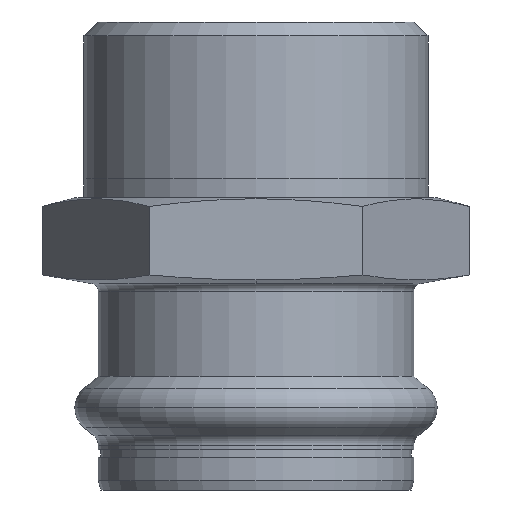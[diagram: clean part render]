
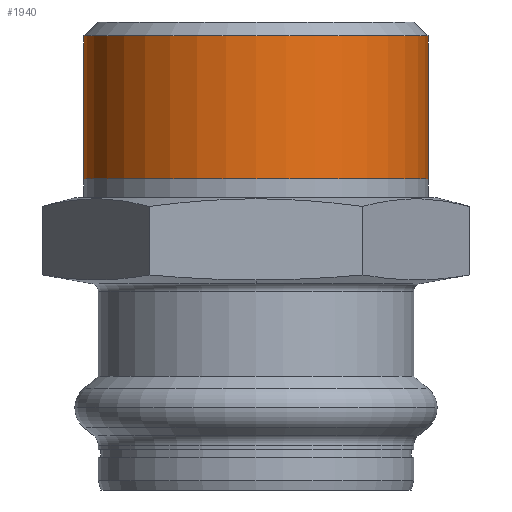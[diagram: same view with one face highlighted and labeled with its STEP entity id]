
A CAD part, front view. The second image highlights one B-rep face of the part: STEP entity #1940.
In plain terms, the highlighted cylindrical face has radius 20.955 mm (diameter 41.91 mm), a partial arc.
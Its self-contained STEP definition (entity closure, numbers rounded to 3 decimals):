
#730=CARTESIAN_POINT('',(37.446,71.588,10.6));
#740=DIRECTION('',(0.,0.,1.));
#750=DIRECTION('',(1.,0.,0.));
#760=AXIS2_PLACEMENT_3D('',#730,#740,#750);
#770=CYLINDRICAL_SURFACE('',#760,20.955);
#1450=CARTESIAN_POINT('',(16.491,71.588,12.9));
#1460=VERTEX_POINT('',#1450);
#1490=CARTESIAN_POINT('',(37.446,71.588,12.9));
#1500=DIRECTION('',(0.,0.,1.));
#1510=DIRECTION('',(1.,0.,0.));
#1520=AXIS2_PLACEMENT_3D('',#1490,#1500,#1510);
#1530=CIRCLE('',#1520,20.955);
#1540=CARTESIAN_POINT('',(58.401,71.588,12.9));
#1550=VERTEX_POINT('',#1540);
#1560=EDGE_CURVE('',#1460,#1550,#1530,.T.);
#1680=CARTESIAN_POINT('',(16.491,71.588,10.6));
#1690=DIRECTION('',(0.,0.,1.));
#1700=VECTOR('',#1690,1.);
#1710=LINE('',#1680,#1700);
#1720=CARTESIAN_POINT('',(16.491,71.588,30.3));
#1730=VERTEX_POINT('',#1720);
#1740=EDGE_CURVE('',#1460,#1730,#1710,.T.);
#1750=ORIENTED_EDGE('',*,*,#1740,.F.);
#1760=CARTESIAN_POINT('',(37.446,71.588,30.3));
#1770=DIRECTION('',(0.,0.,1.));
#1780=DIRECTION('',(1.,0.,0.));
#1790=AXIS2_PLACEMENT_3D('',#1760,#1770,#1780);
#1800=CIRCLE('',#1790,20.955);
#1810=CARTESIAN_POINT('',(58.401,71.588,30.3));
#1820=VERTEX_POINT('',#1810);
#1830=EDGE_CURVE('',#1730,#1820,#1800,.T.);
#1840=ORIENTED_EDGE('',*,*,#1830,.F.);
#1850=CARTESIAN_POINT('',(58.401,71.588,10.6));
#1860=DIRECTION('',(0.,0.,1.));
#1870=VECTOR('',#1860,1.);
#1880=LINE('',#1850,#1870);
#1890=EDGE_CURVE('',#1550,#1820,#1880,.T.);
#1900=ORIENTED_EDGE('',*,*,#1890,.T.);
#1910=ORIENTED_EDGE('',*,*,#1560,.T.);
#1920=EDGE_LOOP('',(#1910,#1900,#1840,#1750));
#1930=FACE_OUTER_BOUND('',#1920,.T.);
#1940=ADVANCED_FACE('1.65-11_1629826',(#1930),#770,.T.);
